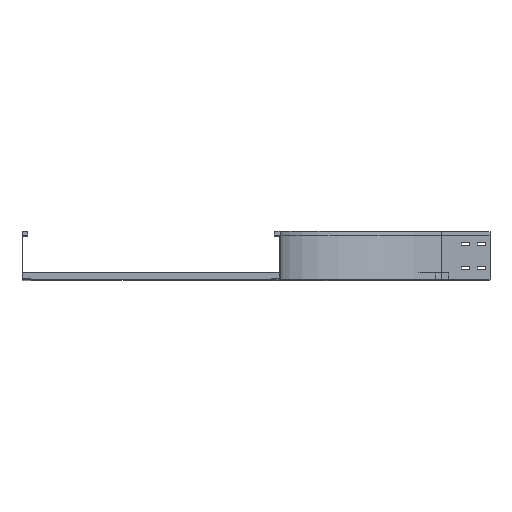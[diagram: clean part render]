
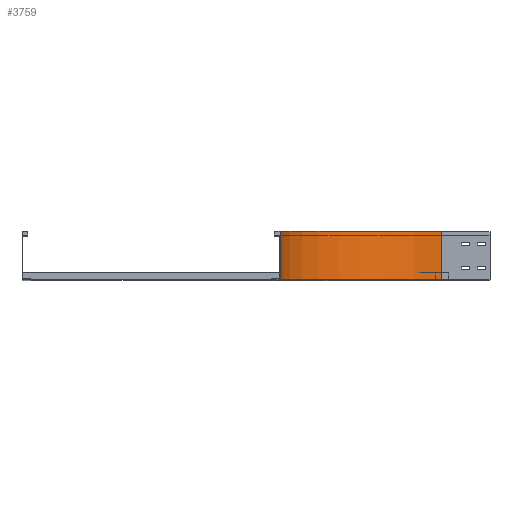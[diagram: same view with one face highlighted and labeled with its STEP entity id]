
A CAD part, top view. The second image highlights one B-rep face of the part: STEP entity #3759.
In plain terms, the highlighted cylindrical face has radius 500 mm (diameter 1000 mm), a partial arc.
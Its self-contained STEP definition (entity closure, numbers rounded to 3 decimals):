
#164 = LINE ( 'NONE', #1520, #4240 ) ;
#321 = EDGE_LOOP ( 'NONE', ( #3720, #3757, #2085, #2647 ) ) ;
#425 = CIRCLE ( 'NONE', #2713, 500. ) ;
#650 = CARTESIAN_POINT ( 'NONE',  ( 500., 150., -150. ) ) ;
#767 = AXIS2_PLACEMENT_3D ( 'NONE', #1858, #768, #4061 ) ;
#768 = DIRECTION ( 'NONE',  ( 0., -1., 0. ) ) ;
#966 = DIRECTION ( 'NONE',  ( 0., -1., 0. ) ) ;
#1047 = VERTEX_POINT ( 'NONE', #3925 ) ;
#1368 = CARTESIAN_POINT ( 'NONE',  ( 500., 0., -650. ) ) ;
#1444 = VERTEX_POINT ( 'NONE', #1742 ) ;
#1520 = CARTESIAN_POINT ( 'NONE',  ( 500., 0., -650. ) ) ;
#1590 = FACE_OUTER_BOUND ( 'NONE', #321, .T. ) ;
#1618 = VECTOR ( 'NONE', #2406, 1000. ) ;
#1686 = LINE ( 'NONE', #4010, #1618 ) ;
#1742 = CARTESIAN_POINT ( 'NONE',  ( 500., 150., -650. ) ) ;
#1858 = CARTESIAN_POINT ( 'NONE',  ( 500., 0., -150. ) ) ;
#1865 = EDGE_CURVE ( 'NONE', #2858, #1444, #164, .T. ) ;
#1924 = CYLINDRICAL_SURFACE ( 'NONE', #767, 500. ) ;
#2085 = ORIENTED_EDGE ( 'NONE', *, *, #3866, .T. ) ;
#2159 = DIRECTION ( 'NONE',  ( 0., 1., 0. ) ) ;
#2335 = DIRECTION ( 'NONE',  ( -1., 0., 0. ) ) ;
#2406 = DIRECTION ( 'NONE',  ( 0., 1., 0. ) ) ;
#2647 = ORIENTED_EDGE ( 'NONE', *, *, #1865, .T. ) ;
#2713 = AXIS2_PLACEMENT_3D ( 'NONE', #650, #3916, #4269 ) ;
#2844 = AXIS2_PLACEMENT_3D ( 'NONE', #3349, #966, #2335 ) ;
#2858 = VERTEX_POINT ( 'NONE', #1368 ) ;
#2864 = EDGE_CURVE ( 'NONE', #1047, #4024, #1686, .T. ) ;
#3103 = CARTESIAN_POINT ( 'NONE',  ( 0., 150., -150. ) ) ;
#3262 = CIRCLE ( 'NONE', #2844, 500. ) ;
#3349 = CARTESIAN_POINT ( 'NONE',  ( 500., 0., -150. ) ) ;
#3470 = EDGE_CURVE ( 'NONE', #4024, #1444, #425, .T. ) ;
#3720 = ORIENTED_EDGE ( 'NONE', *, *, #3470, .F. ) ;
#3757 = ORIENTED_EDGE ( 'NONE', *, *, #2864, .F. ) ;
#3759 = ADVANCED_FACE ( 'NONE', ( #1590 ), #1924, .F. ) ;
#3866 = EDGE_CURVE ( 'NONE', #1047, #2858, #3262, .T. ) ;
#3916 = DIRECTION ( 'NONE',  ( 0., -1., 0. ) ) ;
#3925 = CARTESIAN_POINT ( 'NONE',  ( 0., 0., -150. ) ) ;
#4010 = CARTESIAN_POINT ( 'NONE',  ( 0., 0., -150. ) ) ;
#4024 = VERTEX_POINT ( 'NONE', #3103 ) ;
#4061 = DIRECTION ( 'NONE',  ( 0., 0., -1. ) ) ;
#4240 = VECTOR ( 'NONE', #2159, 1000. ) ;
#4269 = DIRECTION ( 'NONE',  ( -1., 0., 0. ) ) ;
